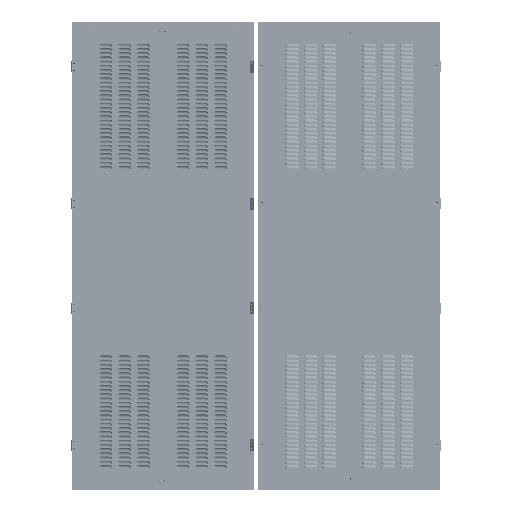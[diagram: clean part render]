
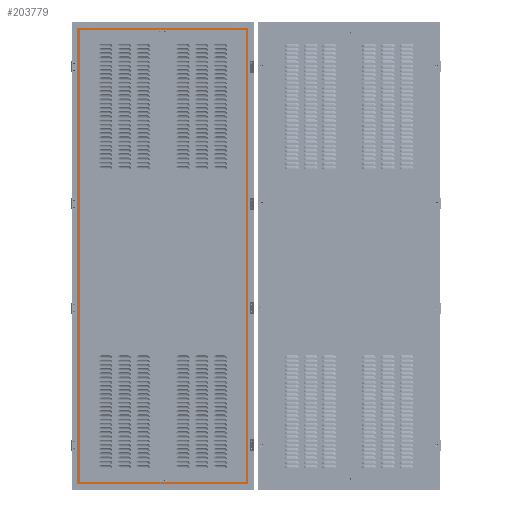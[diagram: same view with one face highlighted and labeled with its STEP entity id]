
A CAD part, top view. The second image highlights one B-rep face of the part: STEP entity #203779.
In plain terms, the highlighted planar face has unit normal (0, 0, 1).
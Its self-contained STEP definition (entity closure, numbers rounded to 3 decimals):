
#3637 = ORIENTED_EDGE ( 'NONE', *, *, #5181, .F. ) ;
#4681 = VERTEX_POINT ( 'NONE', #82434 ) ;
#5070 = EDGE_CURVE ( 'NONE', #137540, #97671, #70435, .T. ) ;
#5181 = EDGE_CURVE ( 'NONE', #97671, #77659, #16801, .T. ) ;
#6451 = LINE ( 'NONE', #53279, #25227 ) ;
#9587 = VECTOR ( 'NONE', #189524, 1000. ) ;
#13169 = CARTESIAN_POINT ( 'NONE',  ( 365.941, 0., -2.05 ) ) ;
#14001 = CARTESIAN_POINT ( 'NONE',  ( -354.175, -31.297, -2.05 ) ) ;
#14781 = PLANE ( 'NONE',  #181583 ) ;
#16801 = LINE ( 'NONE', #69305, #106863 ) ;
#16984 = CARTESIAN_POINT ( 'NONE',  ( 145.5, 177.379, -2.05 ) ) ;
#18151 = FACE_BOUND ( 'NONE', #184336, .T. ) ;
#18777 = CARTESIAN_POINT ( 'NONE',  ( 354.175, -1766.097, -2.05 ) ) ;
#19075 = DIRECTION ( 'NONE',  ( 0., 1., 0. ) ) ;
#20157 = CARTESIAN_POINT ( 'NONE',  ( -354.175, -1751.972, -2.05 ) ) ;
#20756 = LINE ( 'NONE', #213459, #77990 ) ;
#23271 = CARTESIAN_POINT ( 'NONE',  ( 354.175, 177.379, -2.05 ) ) ;
#25227 = VECTOR ( 'NONE', #76021, 1000. ) ;
#25644 = EDGE_CURVE ( 'NONE', #202924, #4681, #38159, .T. ) ;
#29211 = VECTOR ( 'NONE', #212702, 1000. ) ;
#30680 = CARTESIAN_POINT ( 'NONE',  ( -354.175, 177.379, -2.05 ) ) ;
#33334 = EDGE_CURVE ( 'NONE', #205971, #224492, #181345, .T. ) ;
#35235 = VERTEX_POINT ( 'NONE', #106778 ) ;
#35622 = EDGE_CURVE ( 'NONE', #4681, #70844, #187100, .T. ) ;
#38159 = LINE ( 'NONE', #18777, #222715 ) ;
#38215 = ORIENTED_EDGE ( 'NONE', *, *, #35622, .T. ) ;
#41440 = VECTOR ( 'NONE', #99282, 1000. ) ;
#44715 = CARTESIAN_POINT ( 'NONE',  ( -365.94, -1763.737, -2.05 ) ) ;
#45278 = LINE ( 'NONE', #185520, #221497 ) ;
#47969 = CARTESIAN_POINT ( 'NONE',  ( 145.5, -1751.972, -2.05 ) ) ;
#48159 = LINE ( 'NONE', #170123, #9587 ) ;
#53279 = CARTESIAN_POINT ( 'NONE',  ( -354.175, -1766.097, -2.05 ) ) ;
#57390 = EDGE_CURVE ( 'NONE', #79361, #169573, #190747, .T. ) ;
#60112 = VERTEX_POINT ( 'NONE', #128122 ) ;
#62080 = ORIENTED_EDGE ( 'NONE', *, *, #57390, .T. ) ;
#62785 = ORIENTED_EDGE ( 'NONE', *, *, #67359, .T. ) ;
#67359 = EDGE_CURVE ( 'NONE', #109396, #161366, #156880, .T. ) ;
#68761 = VECTOR ( 'NONE', #173711, 1000. ) ;
#69029 = LINE ( 'NONE', #13169, #199510 ) ;
#69305 = CARTESIAN_POINT ( 'NONE',  ( -365.94, 0., -2.05 ) ) ;
#69334 = CARTESIAN_POINT ( 'NONE',  ( 354.175, -1743.297, -2.05 ) ) ;
#70435 = LINE ( 'NONE', #123956, #41440 ) ;
#70459 = LINE ( 'NONE', #69334, #223547 ) ;
#70844 = VERTEX_POINT ( 'NONE', #157684 ) ;
#71278 = CARTESIAN_POINT ( 'NONE',  ( -145.5, -1751.972, -2.05 ) ) ;
#71440 = VECTOR ( 'NONE', #157248, 1000. ) ;
#73180 = VERTEX_POINT ( 'NONE', #208739 ) ;
#76021 = DIRECTION ( 'NONE',  ( 0., 1., 0. ) ) ;
#77659 = VERTEX_POINT ( 'NONE', #198053 ) ;
#77705 = EDGE_CURVE ( 'NONE', #137540, #60112, #69029, .T. ) ;
#77990 = VECTOR ( 'NONE', #157661, 1000. ) ;
#79361 = VERTEX_POINT ( 'NONE', #136073 ) ;
#82434 = CARTESIAN_POINT ( 'NONE',  ( 354.175, -1751.972, -2.05 ) ) ;
#84353 = DIRECTION ( 'NONE',  ( 0., 0., -1. ) ) ;
#88007 = ORIENTED_EDGE ( 'NONE', *, *, #33334, .T. ) ;
#90481 = ORIENTED_EDGE ( 'NONE', *, *, #90485, .T. ) ;
#90485 = EDGE_CURVE ( 'NONE', #175189, #35235, #102546, .T. ) ;
#93897 = DIRECTION ( 'NONE',  ( -1., 0., 0. ) ) ;
#94813 = ORIENTED_EDGE ( 'NONE', *, *, #166904, .T. ) ;
#95020 = LINE ( 'NONE', #130360, #156064 ) ;
#97671 = VERTEX_POINT ( 'NONE', #44715 ) ;
#99282 = DIRECTION ( 'NONE',  ( -1., 0., 0. ) ) ;
#102546 = LINE ( 'NONE', #16984, #71440 ) ;
#103304 = VECTOR ( 'NONE', #153096, 1000. ) ;
#105420 = CARTESIAN_POINT ( 'NONE',  ( 365.941, -1763.737, -2.05 ) ) ;
#106778 = CARTESIAN_POINT ( 'NONE',  ( 145.5, 177.379, -2.05 ) ) ;
#106863 = VECTOR ( 'NONE', #19075, 1000. ) ;
#108815 = DIRECTION ( 'NONE',  ( 0., -1., 0. ) ) ;
#109396 = VERTEX_POINT ( 'NONE', #71278 ) ;
#113050 = ORIENTED_EDGE ( 'NONE', *, *, #77705, .T. ) ;
#117513 = DIRECTION ( 'NONE',  ( -1., 0., 0. ) ) ;
#118576 = CARTESIAN_POINT ( 'NONE',  ( 0., 0., -2.05 ) ) ;
#118951 = ORIENTED_EDGE ( 'NONE', *, *, #25644, .T. ) ;
#121440 = DIRECTION ( 'NONE',  ( 0., 1., 0. ) ) ;
#121971 = EDGE_CURVE ( 'NONE', #224492, #202924, #70459, .T. ) ;
#123334 = CARTESIAN_POINT ( 'NONE',  ( 354.175, -1743.297, -2.05 ) ) ;
#123956 = CARTESIAN_POINT ( 'NONE',  ( 0., -1763.737, -2.05 ) ) ;
#128122 = CARTESIAN_POINT ( 'NONE',  ( 365.941, 189.144, -2.05 ) ) ;
#129894 = EDGE_CURVE ( 'NONE', #161366, #73180, #6451, .T. ) ;
#130360 = CARTESIAN_POINT ( 'NONE',  ( 0., 189.144, -2.05 ) ) ;
#130787 = DIRECTION ( 'NONE',  ( 1., 0., 0. ) ) ;
#132248 = CARTESIAN_POINT ( 'NONE',  ( 354.175, -31.297, -2.05 ) ) ;
#136073 = CARTESIAN_POINT ( 'NONE',  ( -354.175, -31.297, -2.05 ) ) ;
#137540 = VERTEX_POINT ( 'NONE', #105420 ) ;
#137738 = EDGE_CURVE ( 'NONE', #60112, #77659, #95020, .T. ) ;
#140904 = DIRECTION ( 'NONE',  ( 0., -1., 0. ) ) ;
#142259 = EDGE_CURVE ( 'NONE', #35235, #205971, #45278, .T. ) ;
#153096 = DIRECTION ( 'NONE',  ( 0., 1., 0. ) ) ;
#156064 = VECTOR ( 'NONE', #93897, 1000. ) ;
#156880 = LINE ( 'NONE', #193354, #29211 ) ;
#157248 = DIRECTION ( 'NONE',  ( 1., 0., 0. ) ) ;
#157275 = FACE_OUTER_BOUND ( 'NONE', #169035, .T. ) ;
#157661 = DIRECTION ( 'NONE',  ( -1., 0., 0. ) ) ;
#157684 = CARTESIAN_POINT ( 'NONE',  ( 145.5, -1751.972, -2.05 ) ) ;
#161366 = VERTEX_POINT ( 'NONE', #20157 ) ;
#161907 = ORIENTED_EDGE ( 'NONE', *, *, #137738, .T. ) ;
#166904 = EDGE_CURVE ( 'NONE', #169573, #175189, #194205, .T. ) ;
#169035 = EDGE_LOOP ( 'NONE', ( #204868, #113050, #161907, #3637 ) ) ;
#169573 = VERTEX_POINT ( 'NONE', #30680 ) ;
#170123 = CARTESIAN_POINT ( 'NONE',  ( -354.175, -1743.297, -2.05 ) ) ;
#173711 = DIRECTION ( 'NONE',  ( 1., 0., 0. ) ) ;
#175189 = VERTEX_POINT ( 'NONE', #183199 ) ;
#175866 = EDGE_CURVE ( 'NONE', #70844, #109396, #20756, .T. ) ;
#175969 = CARTESIAN_POINT ( 'NONE',  ( -368.3, 177.379, -2.05 ) ) ;
#180561 = VECTOR ( 'NONE', #140904, 1000. ) ;
#181345 = LINE ( 'NONE', #132248, #180561 ) ;
#181583 = AXIS2_PLACEMENT_3D ( 'NONE', #118576, #84353, #208609 ) ;
#181892 = ORIENTED_EDGE ( 'NONE', *, *, #129894, .T. ) ;
#183199 = CARTESIAN_POINT ( 'NONE',  ( -145.5, 177.379, -2.05 ) ) ;
#184336 = EDGE_LOOP ( 'NONE', ( #94813, #90481, #195100, #88007, #189314, #118951, #38215, #204484, #62785, #181892, #195129, #62080 ) ) ;
#185520 = CARTESIAN_POINT ( 'NONE',  ( 368.3, 177.379, -2.05 ) ) ;
#187100 = LINE ( 'NONE', #47969, #207224 ) ;
#189314 = ORIENTED_EDGE ( 'NONE', *, *, #121971, .T. ) ;
#189524 = DIRECTION ( 'NONE',  ( 0., 1., 0. ) ) ;
#190747 = LINE ( 'NONE', #14001, #103304 ) ;
#193354 = CARTESIAN_POINT ( 'NONE',  ( -145.5, -1751.972, -2.05 ) ) ;
#194205 = LINE ( 'NONE', #175969, #68761 ) ;
#195100 = ORIENTED_EDGE ( 'NONE', *, *, #142259, .T. ) ;
#195129 = ORIENTED_EDGE ( 'NONE', *, *, #196485, .T. ) ;
#196485 = EDGE_CURVE ( 'NONE', #73180, #79361, #48159, .T. ) ;
#198053 = CARTESIAN_POINT ( 'NONE',  ( -365.94, 189.144, -2.05 ) ) ;
#199510 = VECTOR ( 'NONE', #121440, 1000. ) ;
#202924 = VERTEX_POINT ( 'NONE', #123334 ) ;
#203779 = ADVANCED_FACE ( 'NONE', ( #18151, #157275 ), #14781, .F. ) ;
#204484 = ORIENTED_EDGE ( 'NONE', *, *, #175866, .T. ) ;
#204868 = ORIENTED_EDGE ( 'NONE', *, *, #5070, .F. ) ;
#205971 = VERTEX_POINT ( 'NONE', #23271 ) ;
#207224 = VECTOR ( 'NONE', #117513, 1000. ) ;
#207309 = DIRECTION ( 'NONE',  ( 0., -1., 0. ) ) ;
#208609 = DIRECTION ( 'NONE',  ( 0., -1., 0. ) ) ;
#208739 = CARTESIAN_POINT ( 'NONE',  ( -354.175, -1743.297, -2.05 ) ) ;
#212702 = DIRECTION ( 'NONE',  ( -1., 0., 0. ) ) ;
#213459 = CARTESIAN_POINT ( 'NONE',  ( 0., -1751.972, -2.05 ) ) ;
#221497 = VECTOR ( 'NONE', #130787, 1000. ) ;
#222161 = CARTESIAN_POINT ( 'NONE',  ( 354.175, -31.297, -2.05 ) ) ;
#222715 = VECTOR ( 'NONE', #108815, 1000. ) ;
#223547 = VECTOR ( 'NONE', #207309, 1000. ) ;
#224492 = VERTEX_POINT ( 'NONE', #222161 ) ;
